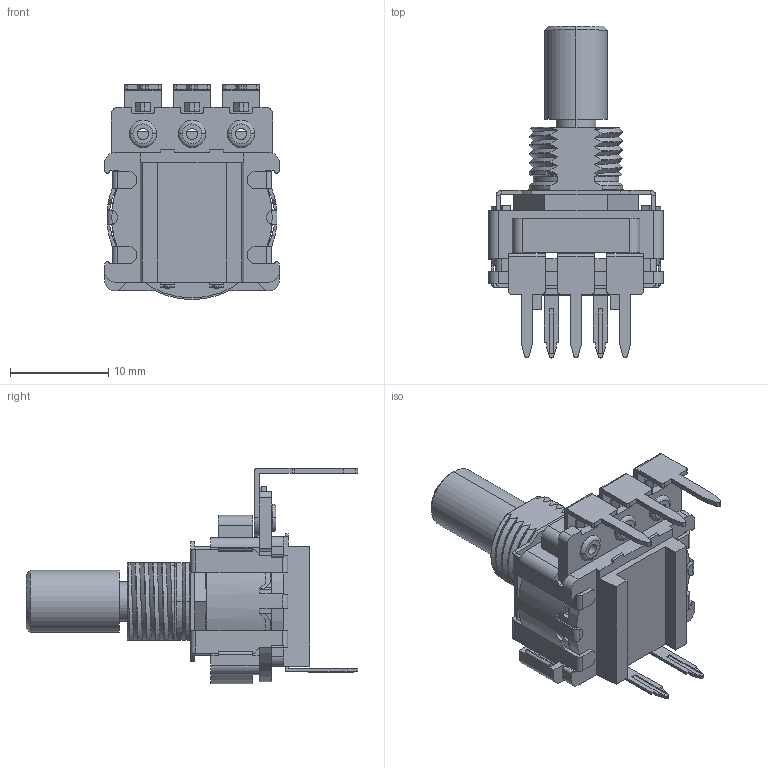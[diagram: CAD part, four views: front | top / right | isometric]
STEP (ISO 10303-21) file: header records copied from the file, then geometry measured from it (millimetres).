
FILE_DESCRIPTION (( 'STEP AP214' ), '1' );
FILE_NAME ('288V221R161B2.STEP', '2019-05-24T08:40:39', ( '' ), ( '' ), 'SwSTEP 2.0', 'SolidWorks 2019', '' );
FILE_SCHEMA (( 'AUTOMOTIVE_DESIGN' ));
Length unit declared in the file: millimetre
Products named in the file (9): 280-01-016-30-01(.093); 288-02-001-40-01B; 13M288S9286-2T; 280-18-T02-01-37(for 280-95-T01-00-00); 280-08-T01 for with switch; 288E-B-2347; 288V221R161B2; 280-02-T06-40-01B; 280-95-024-00-00
Assembly tree (11 placements, depth 3):
  288V221R161B2
    280-02-T06-40-01B
    280-95-024-00-00
      280-01-016-30-01(.093)
      280-18-T02-01-37(for 280-95-T01-00-00)  x4
    280-08-T01 for with switch
    288-02-001-40-01B
    288E-B-2347
    13M288S9286-2T
Bounding box: 17.78 x 33.81 x 21.93 mm (x, y, z)
Volume: 2381.6 mm3; surface area: 4587.2 mm2
Topology: 10 solids, 10 shells, 734 faces, 1979 edges, 1295 vertices
Faces by surface type: plane 434, cylinder 214, bspline 42, cone 24, torus 20
Entity records: 26225 total; most frequent: CARTESIAN_POINT 10082, ORIENTED_EDGE 3316, DIRECTION 3007, EDGE_CURVE 1658, VERTEX_POINT 1085, VECTOR 1081, LINE 1081, AXIS2_PLACEMENT_3D 963
